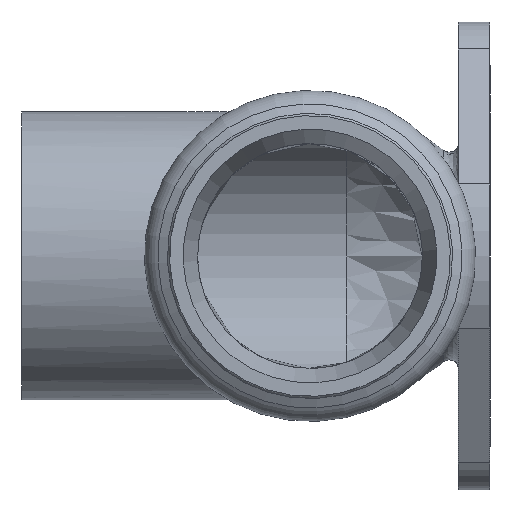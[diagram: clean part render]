
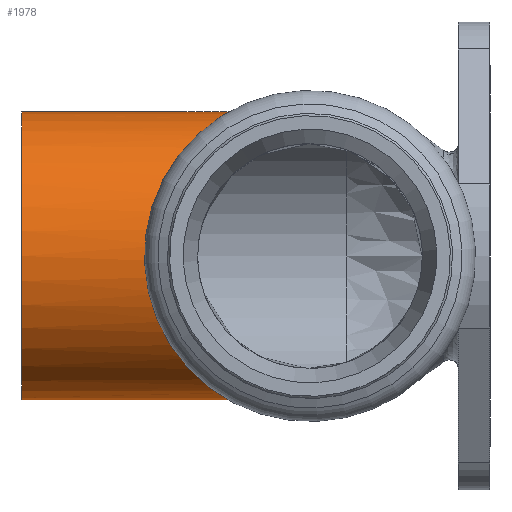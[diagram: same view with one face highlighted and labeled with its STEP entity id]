
A CAD part, left-side view. The second image highlights one B-rep face of the part: STEP entity #1978.
In plain terms, the highlighted cylindrical face has radius 16 mm (diameter 32 mm), a full revolution.
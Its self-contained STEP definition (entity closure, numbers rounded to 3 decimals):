
#530=CARTESIAN_POINT('',(16.,36.0,0.0));
#531=VERTEX_POINT('',#530);
#532=CARTESIAN_POINT('',(0.,36.0,0.0));
#533=DIRECTION('',(0.0,-1.0,0.0));
#534=DIRECTION('',(1.0,0.0,0.0));
#535=AXIS2_PLACEMENT_3D('',#532,#533,#534);
#536=CIRCLE('',#535,16.);
#537=EDGE_CURVE('',#531,#531,#536,.T.);
#676=CARTESIAN_POINT('',(-6.588,0.,-14.581));
#677=VERTEX_POINT('',#676);
#694=CARTESIAN_POINT('',(0.,0.,-16.));
#695=VERTEX_POINT('',#694);
#696=CARTESIAN_POINT('',(0.,0.0,0.0));
#697=DIRECTION('',(0.0,-1.0,0.0));
#698=DIRECTION('',(1.0,0.0,0.0));
#699=AXIS2_PLACEMENT_3D('',#696,#697,#698);
#700=CIRCLE('',#699,16.);
#701=EDGE_CURVE('',#677,#695,#700,.T.);
#703=CARTESIAN_POINT('',(0.,0.,16.));
#704=VERTEX_POINT('',#703);
#705=CARTESIAN_POINT('',(0.,0.0,0.0));
#706=DIRECTION('',(0.0,-1.0,0.0));
#707=DIRECTION('',(1.0,0.0,0.0));
#708=AXIS2_PLACEMENT_3D('',#705,#706,#707);
#709=CIRCLE('',#708,16.);
#710=EDGE_CURVE('',#695,#704,#709,.T.);
#712=CARTESIAN_POINT('',(-6.588,0.,14.581));
#713=VERTEX_POINT('',#712);
#714=CARTESIAN_POINT('',(0.,0.0,0.0));
#715=DIRECTION('',(0.0,-1.0,0.0));
#716=DIRECTION('',(1.0,0.0,0.0));
#717=AXIS2_PLACEMENT_3D('',#714,#715,#716);
#718=CIRCLE('',#717,16.);
#719=EDGE_CURVE('',#704,#713,#718,.T.);
#1673=CARTESIAN_POINT('',(-6.588,0.,14.581));
#1674=CARTESIAN_POINT('',(-6.327,0.487,14.699));
#1675=CARTESIAN_POINT('',(-6.004,1.165,14.833));
#1676=CARTESIAN_POINT('',(-5.639,2.237,14.974));
#1677=CARTESIAN_POINT('',(-5.428,3.17,15.051));
#1678=CARTESIAN_POINT('',(-5.378,4.324,15.069));
#1679=CARTESIAN_POINT('',(-5.534,5.369,15.013));
#1680=CARTESIAN_POINT('',(-5.749,6.097,14.932));
#1681=CARTESIAN_POINT('',(-6.135,7.157,14.78));
#1682=CARTESIAN_POINT('',(-6.749,8.348,14.52));
#1683=CARTESIAN_POINT('',(-7.6,9.691,14.087));
#1684=CARTESIAN_POINT('',(-8.139,10.468,13.778));
#1685=CARTESIAN_POINT('',(-8.963,11.613,13.272));
#1686=CARTESIAN_POINT('',(-10.159,13.159,12.424));
#1687=CARTESIAN_POINT('',(-11.794,15.148,10.893));
#1688=CARTESIAN_POINT('',(-12.97,16.529,9.424));
#1689=CARTESIAN_POINT('',(-13.867,17.569,8.016));
#1690=CARTESIAN_POINT('',(-14.473,18.265,6.874));
#1691=CARTESIAN_POINT('',(-15.03,18.901,5.541));
#1692=CARTESIAN_POINT('',(-15.489,19.422,4.113));
#1693=CARTESIAN_POINT('',(-15.787,19.759,2.734));
#1694=CARTESIAN_POINT('',(-16.022,20.025,0.838));
#1695=CARTESIAN_POINT('',(-16.021,20.023,-1.465));
#1696=CARTESIAN_POINT('',(-15.632,19.584,-3.573));
#1697=CARTESIAN_POINT('',(-15.106,18.987,-5.339));
#1698=CARTESIAN_POINT('',(-14.606,18.417,-6.603));
#1699=CARTESIAN_POINT('',(-13.904,17.612,-7.95));
#1700=CARTESIAN_POINT('',(-13.021,16.589,-9.361));
#1701=CARTESIAN_POINT('',(-12.022,15.415,-10.607));
#1702=CARTESIAN_POINT('',(-10.956,14.129,-11.678));
#1703=CARTESIAN_POINT('',(-9.867,12.783,-12.631));
#1704=CARTESIAN_POINT('',(-8.746,11.333,-13.425));
#1705=CARTESIAN_POINT('',(-7.656,9.78,-14.059));
#1706=CARTESIAN_POINT('',(-6.945,8.659,-14.42));
#1707=CARTESIAN_POINT('',(-6.353,7.578,-14.688));
#1708=CARTESIAN_POINT('',(-5.895,6.556,-14.877));
#1709=CARTESIAN_POINT('',(-5.55,5.469,-15.008));
#1710=CARTESIAN_POINT('',(-5.379,4.331,-15.069));
#1711=CARTESIAN_POINT('',(-5.427,3.175,-15.052));
#1712=CARTESIAN_POINT('',(-5.68,2.059,-14.959));
#1713=CARTESIAN_POINT('',(-6.081,0.995,-14.802));
#1714=CARTESIAN_POINT('',(-6.414,0.324,-14.659));
#1715=CARTESIAN_POINT('',(-6.588,0.,-14.581));
#1716=B_SPLINE_CURVE_WITH_KNOTS('',3,(#1673,#1674,#1675,#1676,#1677,#1678,#1679,#1680,#1681,#1682,#1683,#1684,#1685,#1686,#1687,#1688,#1689,#1690,#1691,#1692,#1693,#1694,#1695,#1696,#1697,#1698,#1699,#1700,#1701,#1702,#1703,#1704,#1705,#1706,#1707,#1708,#1709,#1710,#1711,#1712,#1713,#1714,#1715),.UNSPECIFIED.,.F.,.U.,(4,1,1,1,1,1,1,1,1,1,1,1,1,1,1,1,1,1,1,1,1,1,1,1,1,1,1,1,1,1,1,1,1,1,1,1,1,1,1,1,4),(-6.432,-6.26,-6.202,-6.087,-5.973,-5.858,-5.772,-5.743,-5.513,-5.36,-5.245,-5.207,-4.901,-4.594,-4.288,-4.173,-3.982,-3.829,-3.675,-3.484,-3.369,-3.063,-2.757,-2.68,-2.45,-2.297,-2.144,-1.838,-1.685,-1.531,-1.225,-1.072,-0.919,-0.804,-0.689,-0.574,-0.459,-0.345,-0.23,-0.115,0.0),.UNSPECIFIED.);
#1717=EDGE_CURVE('',#713,#677,#1716,.T.);
#1964=CARTESIAN_POINT('',(0.,18.,0.0));
#1965=DIRECTION('',(0.,-1.0,0.0));
#1966=DIRECTION('',(1.0,0.0,0.0));
#1967=AXIS2_PLACEMENT_3D('',#1964,#1965,#1966);
#1968=CYLINDRICAL_SURFACE('',#1967,16.);
#1969=ORIENTED_EDGE('',*,*,#537,.T.);
#1970=EDGE_LOOP('',(#1969));
#1971=FACE_OUTER_BOUND('',#1970,.T.);
#1972=ORIENTED_EDGE('',*,*,#1717,.F.);
#1973=ORIENTED_EDGE('',*,*,#719,.F.);
#1974=ORIENTED_EDGE('',*,*,#710,.F.);
#1975=ORIENTED_EDGE('',*,*,#701,.F.);
#1976=EDGE_LOOP('',(#1972,#1973,#1974,#1975));
#1977=FACE_BOUND('',#1976,.T.);
#1978=ADVANCED_FACE('',(#1971,#1977),#1968,.T.);
